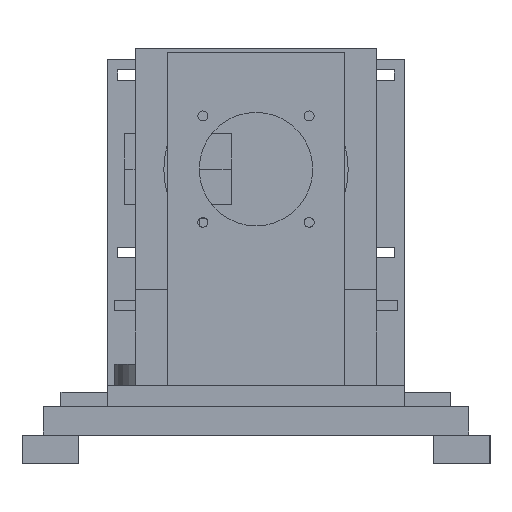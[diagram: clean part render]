
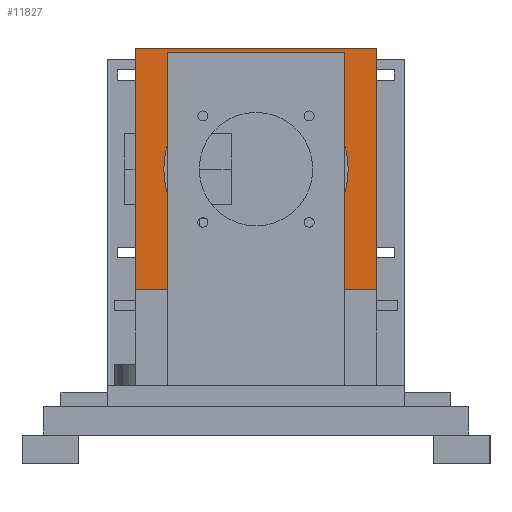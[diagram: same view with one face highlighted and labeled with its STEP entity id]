
A CAD part, left-side view. The second image highlights one B-rep face of the part: STEP entity #11827.
In plain terms, the highlighted planar face has unit normal (-1, 0, 0).
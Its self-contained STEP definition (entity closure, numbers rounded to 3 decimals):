
#11070 = PLANE('',#11071);
#11071 = AXIS2_PLACEMENT_3D('',#11072,#11073,#11074);
#11072 = CARTESIAN_POINT('',(-2.3,-34.,6.));
#11073 = DIRECTION('',(0.,1.,0.));
#11074 = DIRECTION('',(0.,0.,1.));
#11194 = PLANE('',#11195);
#11195 = AXIS2_PLACEMENT_3D('',#11196,#11197,#11198);
#11196 = CARTESIAN_POINT('',(-2.3,34.,6.));
#11197 = DIRECTION('',(0.,1.,0.));
#11198 = DIRECTION('',(0.,0.,1.));
#11372 = PLANE('',#11373);
#11373 = AXIS2_PLACEMENT_3D('',#11374,#11375,#11376);
#11374 = CARTESIAN_POINT('',(-2.3,-34.,101.));
#11375 = DIRECTION('',(0.,0.,1.));
#11376 = DIRECTION('',(1.,0.,0.));
#11757 = CYLINDRICAL_SURFACE('',#11758,26.);
#11758 = AXIS2_PLACEMENT_3D('',#11759,#11760,#11761);
#11759 = CARTESIAN_POINT('',(-6.,0.,67.));
#11760 = DIRECTION('',(-1.,-0.,0.));
#11761 = DIRECTION('',(0.,0.,-1.));
#11772 = EDGE_CURVE('',#11773,#11773,#11775,.T.);
#11773 = VERTEX_POINT('',#11774);
#11774 = CARTESIAN_POINT('',(-4.3,0.,41.));
#11775 = SURFACE_CURVE('',#11776,(#11781,#11788),.PCURVE_S1.);
#11776 = CIRCLE('',#11777,26.);
#11777 = AXIS2_PLACEMENT_3D('',#11778,#11779,#11780);
#11778 = CARTESIAN_POINT('',(-4.3,0.,67.));
#11779 = DIRECTION('',(-1.,-0.,0.));
#11780 = DIRECTION('',(0.,0.,-1.));
#11781 = PCURVE('',#11757,#11782);
#11782 = DEFINITIONAL_REPRESENTATION('',(#11783),#11787);
#11783 = LINE('',#11784,#11785);
#11784 = CARTESIAN_POINT('',(-6.283,-1.7));
#11785 = VECTOR('',#11786,1.);
#11786 = DIRECTION('',(1.,-0.));
#11787 = ( GEOMETRIC_REPRESENTATION_CONTEXT(2) 
PARAMETRIC_REPRESENTATION_CONTEXT() REPRESENTATION_CONTEXT('2D SPACE',''
  ) );
#11788 = PCURVE('',#11789,#11794);
#11789 = PLANE('',#11790);
#11790 = AXIS2_PLACEMENT_3D('',#11791,#11792,#11793);
#11791 = CARTESIAN_POINT('',(-4.3,-34.,33.));
#11792 = DIRECTION('',(1.,0.,0.));
#11793 = DIRECTION('',(0.,0.,1.));
#11794 = DEFINITIONAL_REPRESENTATION('',(#11795),#11803);
#11795 = ( BOUNDED_CURVE() B_SPLINE_CURVE(2,(#11796,#11797,#11798,#11799
    ,#11800,#11801,#11802),.UNSPECIFIED.,.T.,.F.) 
B_SPLINE_CURVE_WITH_KNOTS((1,2,2,2,2,1),(-2.094,0.,
    2.094,4.189,6.283,8.378),
.UNSPECIFIED.) CURVE() GEOMETRIC_REPRESENTATION_ITEM() 
RATIONAL_B_SPLINE_CURVE((1.,0.5,1.,0.5,1.,0.5,1.)) REPRESENTATION_ITEM(
  '') );
#11796 = CARTESIAN_POINT('',(8.,-34.));
#11797 = CARTESIAN_POINT('',(8.,11.033));
#11798 = CARTESIAN_POINT('',(47.,-11.483));
#11799 = CARTESIAN_POINT('',(86.,-34.));
#11800 = CARTESIAN_POINT('',(47.,-56.517));
#11801 = CARTESIAN_POINT('',(8.,-79.033));
#11802 = CARTESIAN_POINT('',(8.,-34.));
#11803 = ( GEOMETRIC_REPRESENTATION_CONTEXT(2) 
PARAMETRIC_REPRESENTATION_CONTEXT() REPRESENTATION_CONTEXT('2D SPACE',''
  ) );
#11827 = ADVANCED_FACE('',(#11828,#11927),#11789,.F.);
#11828 = FACE_BOUND('',#11829,.F.);
#11829 = EDGE_LOOP('',(#11830,#11855,#11883,#11906));
#11830 = ORIENTED_EDGE('',*,*,#11831,.F.);
#11831 = EDGE_CURVE('',#11832,#11834,#11836,.T.);
#11832 = VERTEX_POINT('',#11833);
#11833 = CARTESIAN_POINT('',(-4.3,-34.,33.));
#11834 = VERTEX_POINT('',#11835);
#11835 = CARTESIAN_POINT('',(-4.3,-34.,101.));
#11836 = SURFACE_CURVE('',#11837,(#11841,#11848),.PCURVE_S1.);
#11837 = LINE('',#11838,#11839);
#11838 = CARTESIAN_POINT('',(-4.3,-34.,33.));
#11839 = VECTOR('',#11840,1.);
#11840 = DIRECTION('',(0.,0.,1.));
#11841 = PCURVE('',#11789,#11842);
#11842 = DEFINITIONAL_REPRESENTATION('',(#11843),#11847);
#11843 = LINE('',#11844,#11845);
#11844 = CARTESIAN_POINT('',(0.,0.));
#11845 = VECTOR('',#11846,1.);
#11846 = DIRECTION('',(1.,0.));
#11847 = ( GEOMETRIC_REPRESENTATION_CONTEXT(2) 
PARAMETRIC_REPRESENTATION_CONTEXT() REPRESENTATION_CONTEXT('2D SPACE',''
  ) );
#11848 = PCURVE('',#11070,#11849);
#11849 = DEFINITIONAL_REPRESENTATION('',(#11850),#11854);
#11850 = LINE('',#11851,#11852);
#11851 = CARTESIAN_POINT('',(27.,-2.));
#11852 = VECTOR('',#11853,1.);
#11853 = DIRECTION('',(1.,0.));
#11854 = ( GEOMETRIC_REPRESENTATION_CONTEXT(2) 
PARAMETRIC_REPRESENTATION_CONTEXT() REPRESENTATION_CONTEXT('2D SPACE',''
  ) );
#11855 = ORIENTED_EDGE('',*,*,#11856,.T.);
#11856 = EDGE_CURVE('',#11832,#11857,#11859,.T.);
#11857 = VERTEX_POINT('',#11858);
#11858 = CARTESIAN_POINT('',(-4.3,34.,33.));
#11859 = SURFACE_CURVE('',#11860,(#11864,#11871),.PCURVE_S1.);
#11860 = LINE('',#11861,#11862);
#11861 = CARTESIAN_POINT('',(-4.3,-34.,33.));
#11862 = VECTOR('',#11863,1.);
#11863 = DIRECTION('',(0.,1.,0.));
#11864 = PCURVE('',#11789,#11865);
#11865 = DEFINITIONAL_REPRESENTATION('',(#11866),#11870);
#11866 = LINE('',#11867,#11868);
#11867 = CARTESIAN_POINT('',(0.,0.));
#11868 = VECTOR('',#11869,1.);
#11869 = DIRECTION('',(0.,-1.));
#11870 = ( GEOMETRIC_REPRESENTATION_CONTEXT(2) 
PARAMETRIC_REPRESENTATION_CONTEXT() REPRESENTATION_CONTEXT('2D SPACE',''
  ) );
#11871 = PCURVE('',#11872,#11877);
#11872 = PLANE('',#11873);
#11873 = AXIS2_PLACEMENT_3D('',#11874,#11875,#11876);
#11874 = CARTESIAN_POINT('',(-4.3,-34.,33.));
#11875 = DIRECTION('',(0.,0.,1.));
#11876 = DIRECTION('',(1.,0.,0.));
#11877 = DEFINITIONAL_REPRESENTATION('',(#11878),#11882);
#11878 = LINE('',#11879,#11880);
#11879 = CARTESIAN_POINT('',(0.,0.));
#11880 = VECTOR('',#11881,1.);
#11881 = DIRECTION('',(0.,1.));
#11882 = ( GEOMETRIC_REPRESENTATION_CONTEXT(2) 
PARAMETRIC_REPRESENTATION_CONTEXT() REPRESENTATION_CONTEXT('2D SPACE',''
  ) );
#11883 = ORIENTED_EDGE('',*,*,#11884,.T.);
#11884 = EDGE_CURVE('',#11857,#11885,#11887,.T.);
#11885 = VERTEX_POINT('',#11886);
#11886 = CARTESIAN_POINT('',(-4.3,34.,101.));
#11887 = SURFACE_CURVE('',#11888,(#11892,#11899),.PCURVE_S1.);
#11888 = LINE('',#11889,#11890);
#11889 = CARTESIAN_POINT('',(-4.3,34.,33.));
#11890 = VECTOR('',#11891,1.);
#11891 = DIRECTION('',(0.,0.,1.));
#11892 = PCURVE('',#11789,#11893);
#11893 = DEFINITIONAL_REPRESENTATION('',(#11894),#11898);
#11894 = LINE('',#11895,#11896);
#11895 = CARTESIAN_POINT('',(0.,-68.));
#11896 = VECTOR('',#11897,1.);
#11897 = DIRECTION('',(1.,0.));
#11898 = ( GEOMETRIC_REPRESENTATION_CONTEXT(2) 
PARAMETRIC_REPRESENTATION_CONTEXT() REPRESENTATION_CONTEXT('2D SPACE',''
  ) );
#11899 = PCURVE('',#11194,#11900);
#11900 = DEFINITIONAL_REPRESENTATION('',(#11901),#11905);
#11901 = LINE('',#11902,#11903);
#11902 = CARTESIAN_POINT('',(27.,-2.));
#11903 = VECTOR('',#11904,1.);
#11904 = DIRECTION('',(1.,0.));
#11905 = ( GEOMETRIC_REPRESENTATION_CONTEXT(2) 
PARAMETRIC_REPRESENTATION_CONTEXT() REPRESENTATION_CONTEXT('2D SPACE',''
  ) );
#11906 = ORIENTED_EDGE('',*,*,#11907,.F.);
#11907 = EDGE_CURVE('',#11834,#11885,#11908,.T.);
#11908 = SURFACE_CURVE('',#11909,(#11913,#11920),.PCURVE_S1.);
#11909 = LINE('',#11910,#11911);
#11910 = CARTESIAN_POINT('',(-4.3,-34.,101.));
#11911 = VECTOR('',#11912,1.);
#11912 = DIRECTION('',(0.,1.,0.));
#11913 = PCURVE('',#11789,#11914);
#11914 = DEFINITIONAL_REPRESENTATION('',(#11915),#11919);
#11915 = LINE('',#11916,#11917);
#11916 = CARTESIAN_POINT('',(68.,0.));
#11917 = VECTOR('',#11918,1.);
#11918 = DIRECTION('',(0.,-1.));
#11919 = ( GEOMETRIC_REPRESENTATION_CONTEXT(2) 
PARAMETRIC_REPRESENTATION_CONTEXT() REPRESENTATION_CONTEXT('2D SPACE',''
  ) );
#11920 = PCURVE('',#11372,#11921);
#11921 = DEFINITIONAL_REPRESENTATION('',(#11922),#11926);
#11922 = LINE('',#11923,#11924);
#11923 = CARTESIAN_POINT('',(-2.,0.));
#11924 = VECTOR('',#11925,1.);
#11925 = DIRECTION('',(0.,1.));
#11926 = ( GEOMETRIC_REPRESENTATION_CONTEXT(2) 
PARAMETRIC_REPRESENTATION_CONTEXT() REPRESENTATION_CONTEXT('2D SPACE',''
  ) );
#11927 = FACE_BOUND('',#11928,.F.);
#11928 = EDGE_LOOP('',(#11929));
#11929 = ORIENTED_EDGE('',*,*,#11772,.T.);
